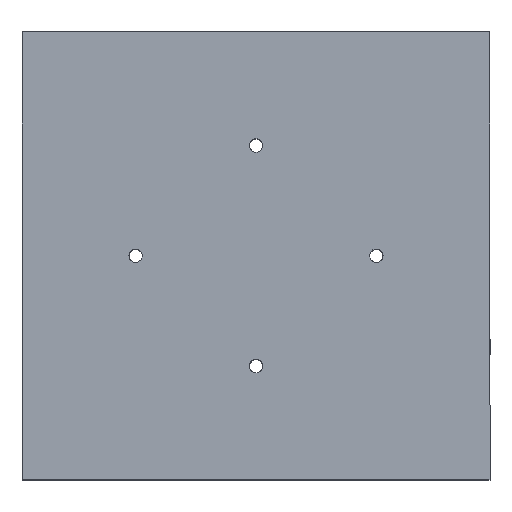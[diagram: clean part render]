
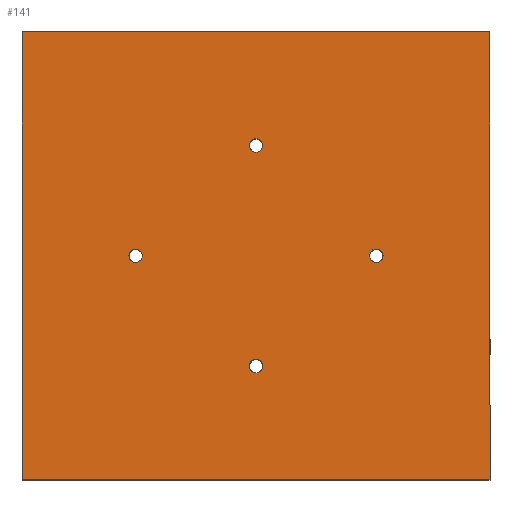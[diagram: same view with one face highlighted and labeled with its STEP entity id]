
A CAD part, top view. The second image highlights one B-rep face of the part: STEP entity #141.
In plain terms, the highlighted planar face has unit normal (0, 0, 1).
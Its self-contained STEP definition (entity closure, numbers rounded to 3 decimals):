
#27 = CIRCLE ( 'NONE', #1195, 1. ) ;
#33 = DIRECTION ( 'NONE',  ( 1., 0., 0. ) ) ;
#64 = DIRECTION ( 'NONE',  ( 1., 0., 0. ) ) ;
#88 = VERTEX_POINT ( 'NONE', #1052 ) ;
#124 = DIRECTION ( 'NONE',  ( 1., 0., 0. ) ) ;
#133 = AXIS2_PLACEMENT_3D ( 'NONE', #773, #1796, #1645 ) ;
#141 = ADVANCED_FACE ( 'NONE', ( #729, #1909, #1401, #555, #1239 ), #382, .T. ) ;
#168 = EDGE_CURVE ( 'NONE', #485, #1152, #873, .T. ) ;
#191 = CARTESIAN_POINT ( 'NONE',  ( 0., -16.5, 19. ) ) ;
#204 = VECTOR ( 'NONE', #1230, 1000. ) ;
#206 = CIRCLE ( 'NONE', #404, 1. ) ;
#223 = DIRECTION ( 'NONE',  ( 0., 0., 1. ) ) ;
#227 = CARTESIAN_POINT ( 'NONE',  ( 18., 0., 19. ) ) ;
#246 = CARTESIAN_POINT ( 'NONE',  ( -35., -33.5, 19. ) ) ;
#282 = DIRECTION ( 'NONE',  ( 0., 0., 1. ) ) ;
#295 = EDGE_CURVE ( 'NONE', #1152, #485, #370, .T. ) ;
#341 = DIRECTION ( 'NONE',  ( 0., 0., 1. ) ) ;
#370 = CIRCLE ( 'NONE', #436, 1. ) ;
#382 = PLANE ( 'NONE',  #1087 ) ;
#404 = AXIS2_PLACEMENT_3D ( 'NONE', #227, #1754, #1251 ) ;
#433 = DIRECTION ( 'NONE',  ( 0., 0., 1. ) ) ;
#436 = AXIS2_PLACEMENT_3D ( 'NONE', #191, #1693, #1180 ) ;
#441 = CIRCLE ( 'NONE', #1685, 1. ) ;
#450 = ORIENTED_EDGE ( 'NONE', *, *, #168, .F. ) ;
#466 = EDGE_CURVE ( 'NONE', #1283, #1324, #27, .T. ) ;
#472 = CIRCLE ( 'NONE', #133, 1. ) ;
#485 = VERTEX_POINT ( 'NONE', #1544 ) ;
#498 = EDGE_LOOP ( 'NONE', ( #1563, #2149 ) ) ;
#526 = EDGE_CURVE ( 'NONE', #915, #1790, #2069, .T. ) ;
#528 = DIRECTION ( 'NONE',  ( 1., 0., 0. ) ) ;
#538 = EDGE_CURVE ( 'NONE', #1790, #915, #472, .T. ) ;
#545 = CARTESIAN_POINT ( 'NONE',  ( 0., 16.5, 19. ) ) ;
#555 = FACE_BOUND ( 'NONE', #1885, .T. ) ;
#574 = EDGE_CURVE ( 'NONE', #88, #2085, #2099, .T. ) ;
#615 = CARTESIAN_POINT ( 'NONE',  ( 18., 0., 19. ) ) ;
#659 = CARTESIAN_POINT ( 'NONE',  ( -1., 16.5, 19. ) ) ;
#676 = CARTESIAN_POINT ( 'NONE',  ( -18., 0., 19. ) ) ;
#681 = CARTESIAN_POINT ( 'NONE',  ( -35., -33.5, 19. ) ) ;
#684 = DIRECTION ( 'NONE',  ( 0., 0., 1. ) ) ;
#702 = AXIS2_PLACEMENT_3D ( 'NONE', #615, #282, #1491 ) ;
#729 = FACE_BOUND ( 'NONE', #970, .T. ) ;
#747 = CARTESIAN_POINT ( 'NONE',  ( -17., 0., 19. ) ) ;
#766 = AXIS2_PLACEMENT_3D ( 'NONE', #545, #821, #124 ) ;
#773 = CARTESIAN_POINT ( 'NONE',  ( 0., 16.5, 19. ) ) ;
#821 = DIRECTION ( 'NONE',  ( 0., 0., 1. ) ) ;
#848 = EDGE_CURVE ( 'NONE', #1479, #1895, #2062, .T. ) ;
#873 = CIRCLE ( 'NONE', #1158, 1. ) ;
#915 = VERTEX_POINT ( 'NONE', #1567 ) ;
#943 = CARTESIAN_POINT ( 'NONE',  ( -35., 33.5, 19. ) ) ;
#950 = VECTOR ( 'NONE', #1663, 1000. ) ;
#970 = EDGE_LOOP ( 'NONE', ( #1303, #1942 ) ) ;
#1052 = CARTESIAN_POINT ( 'NONE',  ( 17., 0., 19. ) ) ;
#1056 = CARTESIAN_POINT ( 'NONE',  ( -35., 33.5, 19. ) ) ;
#1060 = VECTOR ( 'NONE', #528, 1000. ) ;
#1071 = CARTESIAN_POINT ( 'NONE',  ( 0., 0., 19. ) ) ;
#1087 = AXIS2_PLACEMENT_3D ( 'NONE', #1071, #223, #64 ) ;
#1152 = VERTEX_POINT ( 'NONE', #1886 ) ;
#1158 = AXIS2_PLACEMENT_3D ( 'NONE', #1603, #433, #1274 ) ;
#1174 = EDGE_CURVE ( 'NONE', #1357, #1667, #1669, .T. ) ;
#1180 = DIRECTION ( 'NONE',  ( 1., 0., 0. ) ) ;
#1195 = AXIS2_PLACEMENT_3D ( 'NONE', #676, #341, #33 ) ;
#1211 = EDGE_CURVE ( 'NONE', #1667, #1479, #1692, .T. ) ;
#1230 = DIRECTION ( 'NONE',  ( -1., 0., 0. ) ) ;
#1239 = FACE_OUTER_BOUND ( 'NONE', #1378, .T. ) ;
#1251 = DIRECTION ( 'NONE',  ( 1., 0., 0. ) ) ;
#1254 = ORIENTED_EDGE ( 'NONE', *, *, #295, .F. ) ;
#1274 = DIRECTION ( 'NONE',  ( 1., 0., 0. ) ) ;
#1280 = EDGE_CURVE ( 'NONE', #2085, #88, #206, .T. ) ;
#1283 = VERTEX_POINT ( 'NONE', #747 ) ;
#1303 = ORIENTED_EDGE ( 'NONE', *, *, #526, .F. ) ;
#1324 = VERTEX_POINT ( 'NONE', #1906 ) ;
#1351 = CARTESIAN_POINT ( 'NONE',  ( 35., 33.5, 19. ) ) ;
#1357 = VERTEX_POINT ( 'NONE', #246 ) ;
#1361 = CARTESIAN_POINT ( 'NONE',  ( 35., 33.5, 19. ) ) ;
#1378 = EDGE_LOOP ( 'NONE', ( #2180, #1456, #2148, #1686 ) ) ;
#1401 = FACE_BOUND ( 'NONE', #498, .T. ) ;
#1453 = CARTESIAN_POINT ( 'NONE',  ( 35., -33.5, 19. ) ) ;
#1456 = ORIENTED_EDGE ( 'NONE', *, *, #848, .T. ) ;
#1457 = CARTESIAN_POINT ( 'NONE',  ( 19., 0., 19. ) ) ;
#1464 = EDGE_CURVE ( 'NONE', #1895, #1357, #1995, .T. ) ;
#1479 = VERTEX_POINT ( 'NONE', #1351 ) ;
#1491 = DIRECTION ( 'NONE',  ( 1., 0., 0. ) ) ;
#1508 = EDGE_CURVE ( 'NONE', #1324, #1283, #441, .T. ) ;
#1544 = CARTESIAN_POINT ( 'NONE',  ( 1., -16.5, 19. ) ) ;
#1563 = ORIENTED_EDGE ( 'NONE', *, *, #466, .F. ) ;
#1567 = CARTESIAN_POINT ( 'NONE',  ( 1., 16.5, 19. ) ) ;
#1603 = CARTESIAN_POINT ( 'NONE',  ( 0., -16.5, 19. ) ) ;
#1645 = DIRECTION ( 'NONE',  ( 1., 0., 0. ) ) ;
#1653 = VECTOR ( 'NONE', #1878, 1000. ) ;
#1663 = DIRECTION ( 'NONE',  ( 0., -1., 0. ) ) ;
#1667 = VERTEX_POINT ( 'NONE', #1453 ) ;
#1669 = LINE ( 'NONE', #681, #1060 ) ;
#1681 = CARTESIAN_POINT ( 'NONE',  ( -35., 33.5, 19. ) ) ;
#1685 = AXIS2_PLACEMENT_3D ( 'NONE', #2018, #684, #2154 ) ;
#1686 = ORIENTED_EDGE ( 'NONE', *, *, #1174, .T. ) ;
#1692 = LINE ( 'NONE', #1361, #1653 ) ;
#1693 = DIRECTION ( 'NONE',  ( 0., 0., 1. ) ) ;
#1754 = DIRECTION ( 'NONE',  ( 0., 0., 1. ) ) ;
#1790 = VERTEX_POINT ( 'NONE', #659 ) ;
#1796 = DIRECTION ( 'NONE',  ( 0., 0., 1. ) ) ;
#1806 = ORIENTED_EDGE ( 'NONE', *, *, #1280, .F. ) ;
#1878 = DIRECTION ( 'NONE',  ( 0., 1., 0. ) ) ;
#1885 = EDGE_LOOP ( 'NONE', ( #450, #1254 ) ) ;
#1886 = CARTESIAN_POINT ( 'NONE',  ( -1., -16.5, 19. ) ) ;
#1895 = VERTEX_POINT ( 'NONE', #943 ) ;
#1906 = CARTESIAN_POINT ( 'NONE',  ( -19., 0., 19. ) ) ;
#1909 = FACE_BOUND ( 'NONE', #2094, .T. ) ;
#1942 = ORIENTED_EDGE ( 'NONE', *, *, #538, .F. ) ;
#1995 = LINE ( 'NONE', #1681, #950 ) ;
#2018 = CARTESIAN_POINT ( 'NONE',  ( -18., 0., 19. ) ) ;
#2062 = LINE ( 'NONE', #1056, #204 ) ;
#2069 = CIRCLE ( 'NONE', #766, 1. ) ;
#2085 = VERTEX_POINT ( 'NONE', #1457 ) ;
#2094 = EDGE_LOOP ( 'NONE', ( #1806, #2114 ) ) ;
#2099 = CIRCLE ( 'NONE', #702, 1. ) ;
#2114 = ORIENTED_EDGE ( 'NONE', *, *, #574, .F. ) ;
#2148 = ORIENTED_EDGE ( 'NONE', *, *, #1464, .T. ) ;
#2149 = ORIENTED_EDGE ( 'NONE', *, *, #1508, .F. ) ;
#2154 = DIRECTION ( 'NONE',  ( 1., 0., 0. ) ) ;
#2180 = ORIENTED_EDGE ( 'NONE', *, *, #1211, .T. ) ;
